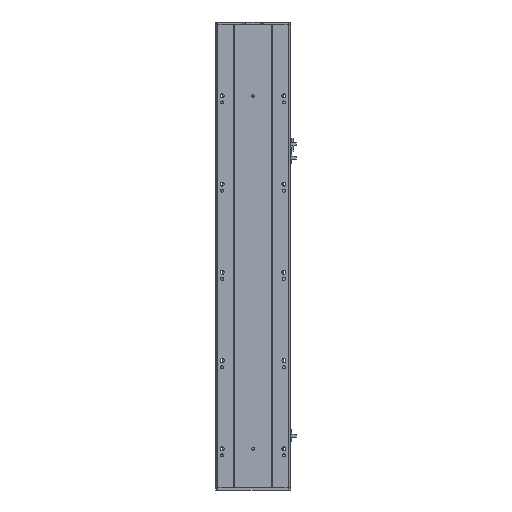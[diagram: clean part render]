
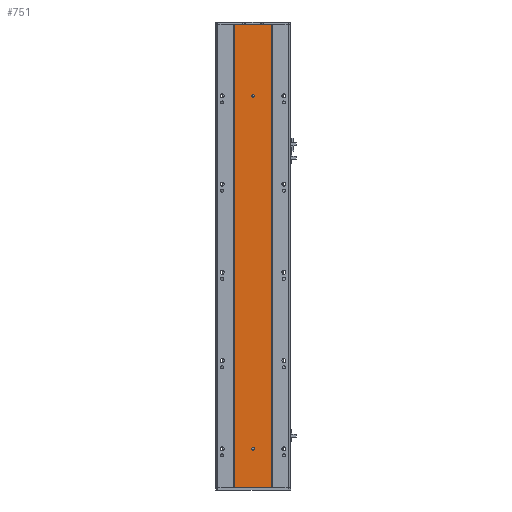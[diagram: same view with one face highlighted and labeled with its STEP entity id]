
A CAD part, front view. The second image highlights one B-rep face of the part: STEP entity #751.
In plain terms, the highlighted planar face has unit normal (0, -1, 0).
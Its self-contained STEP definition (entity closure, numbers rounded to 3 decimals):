
#350 = LINE ( 'NONE', #7424, #9955 ) ;
#751 = ADVANCED_FACE ( 'NONE', ( #8480, #23226, #2805 ), #18676, .F. ) ;
#1401 = EDGE_LOOP ( 'NONE', ( #14494, #20278, #22202, #18320 ) ) ;
#1501 = CIRCLE ( 'NONE', #21784, 3. ) ;
#1506 = DIRECTION ( 'NONE',  ( 0., 0., 1. ) ) ;
#2563 = ORIENTED_EDGE ( 'NONE', *, *, #15785, .T. ) ;
#2574 = EDGE_CURVE ( 'NONE', #24163, #13940, #350, .T. ) ;
#2686 = CIRCLE ( 'NONE', #24726, 3. ) ;
#2805 = FACE_OUTER_BOUND ( 'NONE', #1401, .T. ) ;
#3124 = VERTEX_POINT ( 'NONE', #3785 ) ;
#3614 = DIRECTION ( 'NONE',  ( -1., 0., 0. ) ) ;
#3707 = VERTEX_POINT ( 'NONE', #20858 ) ;
#3747 = CARTESIAN_POINT ( 'NONE',  ( 126.916, 2.57, 0. ) ) ;
#3785 = CARTESIAN_POINT ( 'NONE',  ( 85., 2.57, 891.5 ) ) ;
#4561 = EDGE_CURVE ( 'NONE', #8415, #13940, #7572, .T. ) ;
#5690 = VERTEX_POINT ( 'NONE', #21100 ) ;
#5699 = CARTESIAN_POINT ( 'NONE',  ( 42.916, 2.57, 0. ) ) ;
#6972 = VECTOR ( 'NONE', #3614, 1000. ) ;
#7288 = EDGE_LOOP ( 'NONE', ( #8881, #2563 ) ) ;
#7424 = CARTESIAN_POINT ( 'NONE',  ( 42.916, 2.57, 0. ) ) ;
#7572 = LINE ( 'NONE', #15089, #6972 ) ;
#7827 = EDGE_CURVE ( 'NONE', #5690, #3707, #1501, .T. ) ;
#8291 = LINE ( 'NONE', #3747, #12768 ) ;
#8415 = VERTEX_POINT ( 'NONE', #10511 ) ;
#8480 = FACE_BOUND ( 'NONE', #15191, .T. ) ;
#8881 = ORIENTED_EDGE ( 'NONE', *, *, #11006, .T. ) ;
#8900 = VERTEX_POINT ( 'NONE', #19741 ) ;
#9076 = CARTESIAN_POINT ( 'NONE',  ( 85., 2.57, 888.5 ) ) ;
#9304 = EDGE_CURVE ( 'NONE', #17179, #24163, #20640, .T. ) ;
#9551 = CARTESIAN_POINT ( 'NONE',  ( 126.916, 2.57, 0. ) ) ;
#9774 = CARTESIAN_POINT ( 'NONE',  ( 85., 2.57, 88.5 ) ) ;
#9857 = CARTESIAN_POINT ( 'NONE',  ( 42.916, 2.57, 1051. ) ) ;
#9955 = VECTOR ( 'NONE', #20869, 1000. ) ;
#10077 = ORIENTED_EDGE ( 'NONE', *, *, #10466, .T. ) ;
#10466 = EDGE_CURVE ( 'NONE', #3707, #5690, #2686, .T. ) ;
#10511 = CARTESIAN_POINT ( 'NONE',  ( 126.916, 2.57, 1051. ) ) ;
#10618 = DIRECTION ( 'NONE',  ( 0., 1., 0. ) ) ;
#11006 = EDGE_CURVE ( 'NONE', #8900, #3124, #16143, .T. ) ;
#11033 = DIRECTION ( 'NONE',  ( 0., 0., 1. ) ) ;
#11064 = CARTESIAN_POINT ( 'NONE',  ( 42.916, 2.57, 0. ) ) ;
#11416 = DIRECTION ( 'NONE',  ( 0., 1., 0. ) ) ;
#11473 = DIRECTION ( 'NONE',  ( -1., 0., 0. ) ) ;
#11693 = DIRECTION ( 'NONE',  ( 0., 0., 1. ) ) ;
#12709 = ORIENTED_EDGE ( 'NONE', *, *, #7827, .T. ) ;
#12768 = VECTOR ( 'NONE', #13281, 1000. ) ;
#12956 = DIRECTION ( 'NONE',  ( 0., 1., 0. ) ) ;
#13281 = DIRECTION ( 'NONE',  ( 0., 0., 1. ) ) ;
#13833 = CIRCLE ( 'NONE', #24768, 3. ) ;
#13940 = VERTEX_POINT ( 'NONE', #9857 ) ;
#14494 = ORIENTED_EDGE ( 'NONE', *, *, #4561, .T. ) ;
#14913 = VECTOR ( 'NONE', #11473, 1000. ) ;
#15089 = CARTESIAN_POINT ( 'NONE',  ( 42.916, 2.57, 1051. ) ) ;
#15191 = EDGE_LOOP ( 'NONE', ( #12709, #10077 ) ) ;
#15785 = EDGE_CURVE ( 'NONE', #3124, #8900, #13833, .T. ) ;
#16143 = CIRCLE ( 'NONE', #19912, 3. ) ;
#17179 = VERTEX_POINT ( 'NONE', #9551 ) ;
#17308 = CARTESIAN_POINT ( 'NONE',  ( 42.916, 2.57, 0. ) ) ;
#18082 = AXIS2_PLACEMENT_3D ( 'NONE', #11064, #12956, #1506 ) ;
#18320 = ORIENTED_EDGE ( 'NONE', *, *, #20707, .T. ) ;
#18676 = PLANE ( 'NONE',  #18082 ) ;
#19741 = CARTESIAN_POINT ( 'NONE',  ( 85., 2.57, 885.5 ) ) ;
#19912 = AXIS2_PLACEMENT_3D ( 'NONE', #22947, #11416, #24882 ) ;
#20278 = ORIENTED_EDGE ( 'NONE', *, *, #2574, .F. ) ;
#20640 = LINE ( 'NONE', #5699, #14913 ) ;
#20707 = EDGE_CURVE ( 'NONE', #17179, #8415, #8291, .T. ) ;
#20858 = CARTESIAN_POINT ( 'NONE',  ( 85., 2.57, 91.5 ) ) ;
#20869 = DIRECTION ( 'NONE',  ( 0., 0., 1. ) ) ;
#21100 = CARTESIAN_POINT ( 'NONE',  ( 85., 2.57, 85.5 ) ) ;
#21784 = AXIS2_PLACEMENT_3D ( 'NONE', #22115, #10618, #24066 ) ;
#22115 = CARTESIAN_POINT ( 'NONE',  ( 85., 2.57, 88.5 ) ) ;
#22202 = ORIENTED_EDGE ( 'NONE', *, *, #9304, .F. ) ;
#22536 = DIRECTION ( 'NONE',  ( 0., 1., 0. ) ) ;
#22947 = CARTESIAN_POINT ( 'NONE',  ( 85., 2.57, 888.5 ) ) ;
#23223 = DIRECTION ( 'NONE',  ( 0., 1., 0. ) ) ;
#23226 = FACE_BOUND ( 'NONE', #7288, .T. ) ;
#24066 = DIRECTION ( 'NONE',  ( 0., 0., 1. ) ) ;
#24163 = VERTEX_POINT ( 'NONE', #17308 ) ;
#24726 = AXIS2_PLACEMENT_3D ( 'NONE', #9774, #23223, #11693 ) ;
#24768 = AXIS2_PLACEMENT_3D ( 'NONE', #9076, #22536, #11033 ) ;
#24882 = DIRECTION ( 'NONE',  ( 0., 0., 1. ) ) ;
